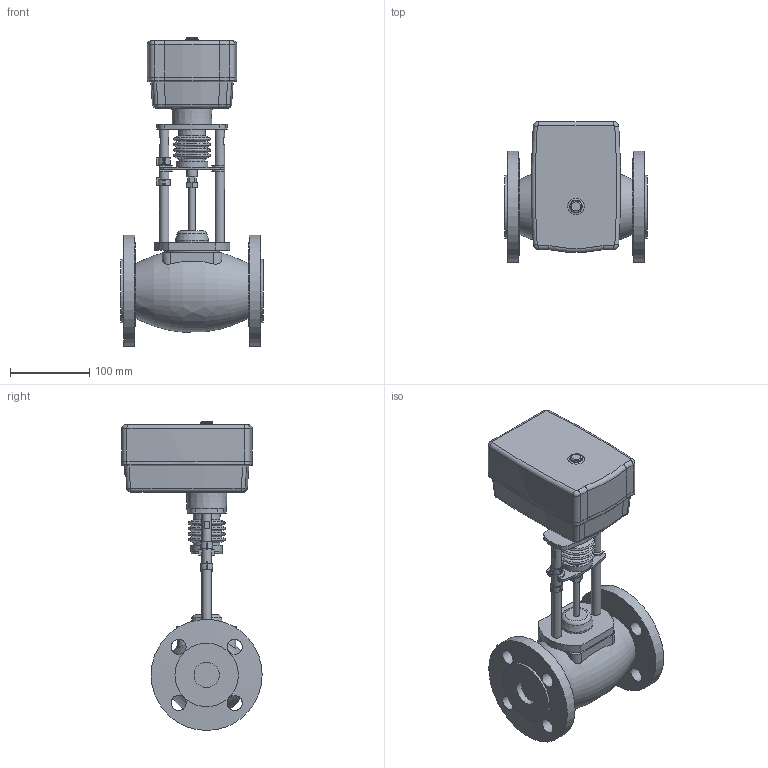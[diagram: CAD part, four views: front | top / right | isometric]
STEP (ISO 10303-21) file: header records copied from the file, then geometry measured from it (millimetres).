
FILE_DESCRIPTION(/* description */ ('Unknown'),/* implementation_level */ '2;1');
FILE_NAME(/* name */ 'Клапан TRV-032-101',/* time_stamp */ '2021-12-06T16:09:56+03:00',/* author */ ('Unknown'),/* organization */ ('Unknown'),/* preprocessor_version */ 'ST-DEVELOPER v16.7',/* originating_system */ 'DEX',/* authorisation */ $);
FILE_SCHEMA (('AUTOMOTIVE_DESIGN {1 0 10303 214 3 1 1}'));
Length unit declared in the file: millimetre
Products named in the file (1): 抔黽鳧 TRV-032-101
Bounding box: 180 x 176.96 x 389.4 mm (x, y, z)
Volume: 3143529.6 mm3; surface area: 239292.9 mm2
Topology: 1 solids, 1 shells, 301 faces, 780 edges, 499 vertices
Faces by surface type: plane 152, cylinder 78, torus 35, cone 26, bspline 6, sphere 4
Full cylindrical faces by diameter (mm): 8.2 x1, 12.002 x4, 13 x1, 15 x1, 19 x8, 31.8 x2, 33.4 x1, 40 x1, 42 x1, 69.5 x1, 80 x2, 140 x2
Entity records: 11255 total; most frequent: CARTESIAN_POINT 2147, DIRECTION 1472, ORIENTED_EDGE 1370, EDGE_CURVE 685, AXIS2_PLACEMENT_3D 567, VERTEX_POINT 458, EDGE_LOOP 397, FACE_BOUND 397
